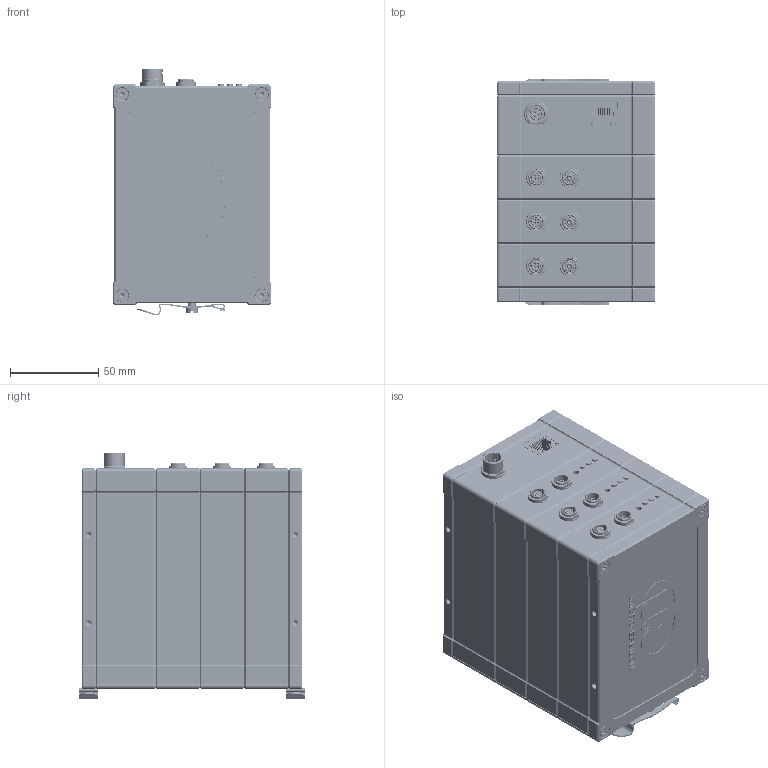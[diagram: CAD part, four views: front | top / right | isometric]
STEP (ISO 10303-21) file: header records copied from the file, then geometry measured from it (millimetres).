
FILE_DESCRIPTION((''),'2;1');
FILE_NAME('0000051416_ASM','2013-01-15T',('11000065'),(''),'PRO/ENGINEER BY PARAMETRIC TECHNOLOGY CORPORATION, 2012360','PRO/ENGINEER BY PARAMETRIC TECHNOLOGY CORPORATION, 2012360','');
FILE_SCHEMA(('AUTOMOTIVE_DESIGN { 1 0 10303 214 1 1 1 1 }'));
Products named in the file (15): 0000030906; 0000038141; 0000012139; GH1L0C-P03RP00-0000; C-5-6605425-1-E-3D; 0000047983_ASM; 0000030905; 0000047985; G50L0C-P04QF00-0000; 0323086; 0000047984_ASM; 0000038146; 0000042844; 0000013467; 0000051416_ASM
Assembly tree (27 placements, depth 3):
  0000051416_ASM
    0000047983_ASM
      0000030906
      0000038141
      0000012139  x4
      GH1L0C-P03RP00-0000
      C-5-6605425-1-E-3D
    0000047984_ASM  x3
      0000030905
      0000047985
      G50L0C-P04QF00-0000
      0323086
    0000038146
    0000042844  x2
    0000013467  x2
    0000012139  x4
Bounding box: 90 x 128 x 139.79 mm (x, y, z)
Volume: 289459.6 mm3; surface area: 199921.9 mm2
Topology: 41 solids, 41 shells, 4747 faces, 12849 edges, 8330 vertices
Faces by surface type: plane 1854, cone 1270, cylinder 1222, torus 310, extrusion 70, bspline 12, sphere 9
Entity records: 115933 total; most frequent: CARTESIAN_POINT 24710, ORIENTED_EDGE 14036, DIRECTION 13643, EDGE_CURVE 7018, PRESENTATION_STYLE_ASSIGNMENT 5681, STYLED_ITEM 5620, CURVE_STYLE 5326, AXIS2_PLACEMENT_3D 4967
